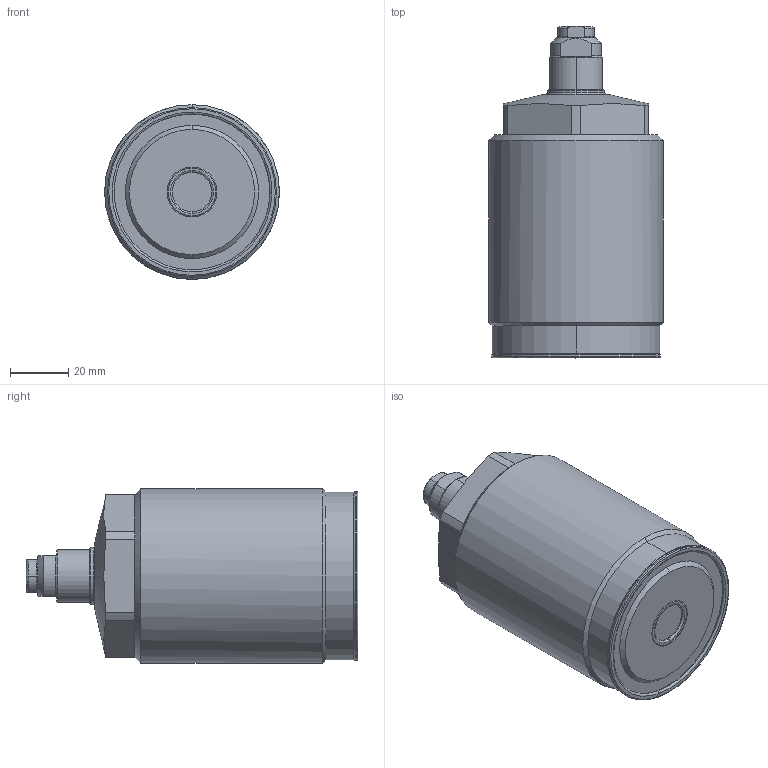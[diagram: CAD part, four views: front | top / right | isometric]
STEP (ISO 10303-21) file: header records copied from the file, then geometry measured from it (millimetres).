
FILE_DESCRIPTION(/* description */ (''),/* implementation_level */ '2;1');
FILE_NAME(/* name */ 'TNE60.stp',/* time_stamp */ '2022-11-17T13:54:25+08:00',/* author */ (''),/* organization */ (''),/* preprocessor_version */ 'ST-DEVELOPER v16.7',/* originating_system */ 'SIEMENS PLM Software NX 12.0',/* authorisation */ '');
FILE_SCHEMA (('AP203_CONFIGURATION_CONTROLLED_3D_DESIGN_OF_MECHANICAL_PARTS_AND_ASSEMBLIES_MIM_LF { 1 0 10303 403 2 1 2}'));
Length unit declared in the file: millimetre
Products named in the file (7): XLC-M10_Oring2852; XLC-M10_contactbolt1022; TNE60-04; TNE60-01; TNE60-02; TNE60-03; WNC6003-x_step
Assembly tree (6 placements, depth 3):
  WNC6003-x_step
    TNE60-02
    TNE60-03
      XLC-M10_contactbolt1022
      XLC-M10_Oring2852
    TNE60-01
    TNE60-04
Bounding box: 60 x 114 x 60 mm (x, y, z)
Volume: 242812.3 mm3; surface area: 25414.2 mm2
Topology: 5 solids, 5 shells, 147 faces, 316 edges, 188 vertices
Faces by surface type: torus 44, cylinder 44, plane 36, cone 21, sphere 2
Full cylindrical faces by diameter (mm): 60 x1
Entity records: 4935 total; most frequent: CARTESIAN_POINT 836, DIRECTION 805, ORIENTED_EDGE 624, AXIS2_PLACEMENT_3D 361, EDGE_CURVE 312, CIRCLE 207, VERTEX_POINT 188, EDGE_LOOP 166
